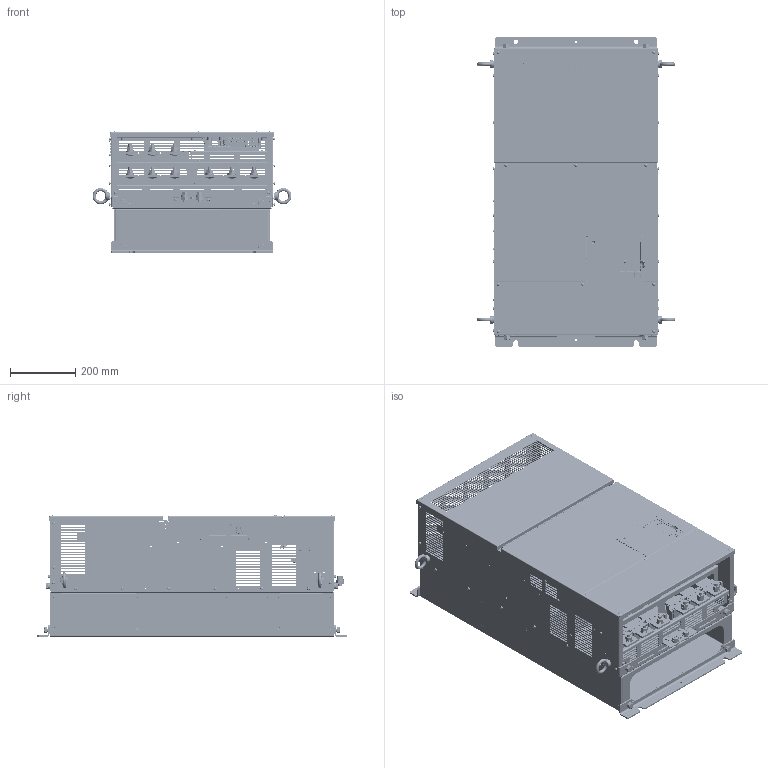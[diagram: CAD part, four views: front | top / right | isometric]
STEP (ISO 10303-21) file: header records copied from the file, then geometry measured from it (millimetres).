
FILE_DESCRIPTION((''),'2;1');
FILE_NAME('A1000_FRAME_N','2021-04-15T',('jam'),('YASKAWA ELECTRIC CORCORATION'),'PRO/ENGINEER BY PARAMETRIC TECHNOLOGY CORPORATION, 2017170','PRO/ENGINEER BY PARAMETRIC TECHNOLOGY CORPORATION, 2017170','');
FILE_SCHEMA(('AUTOMOTIVE_DESIGN { 1 0 10303 214 1 1 1 1 }'));
Products named in the file (1): A1000_FRAME_N
Bounding box: 611.2 x 950 x 372.84 mm (x, y, z)
Surface area: 6365448.5 mm2 (no closed solid volume)
Topology: 0 solids, 1016 shells, 9621 faces, 37038 edges, 27603 vertices
Faces by surface type: plane 4915, cylinder 2588, cone 859, bspline 558, torus 517, sphere 182, extrusion 2
Entity records: 497409 total; most frequent: CARTESIAN_POINT 199490, DIRECTION 56370, ORIENTED_EDGE 55865, EDGE_CURVE 36847, VERTEX_POINT 27603, VECTOR 21172, LINE 21170, AXIS2_PLACEMENT_3D 17599
